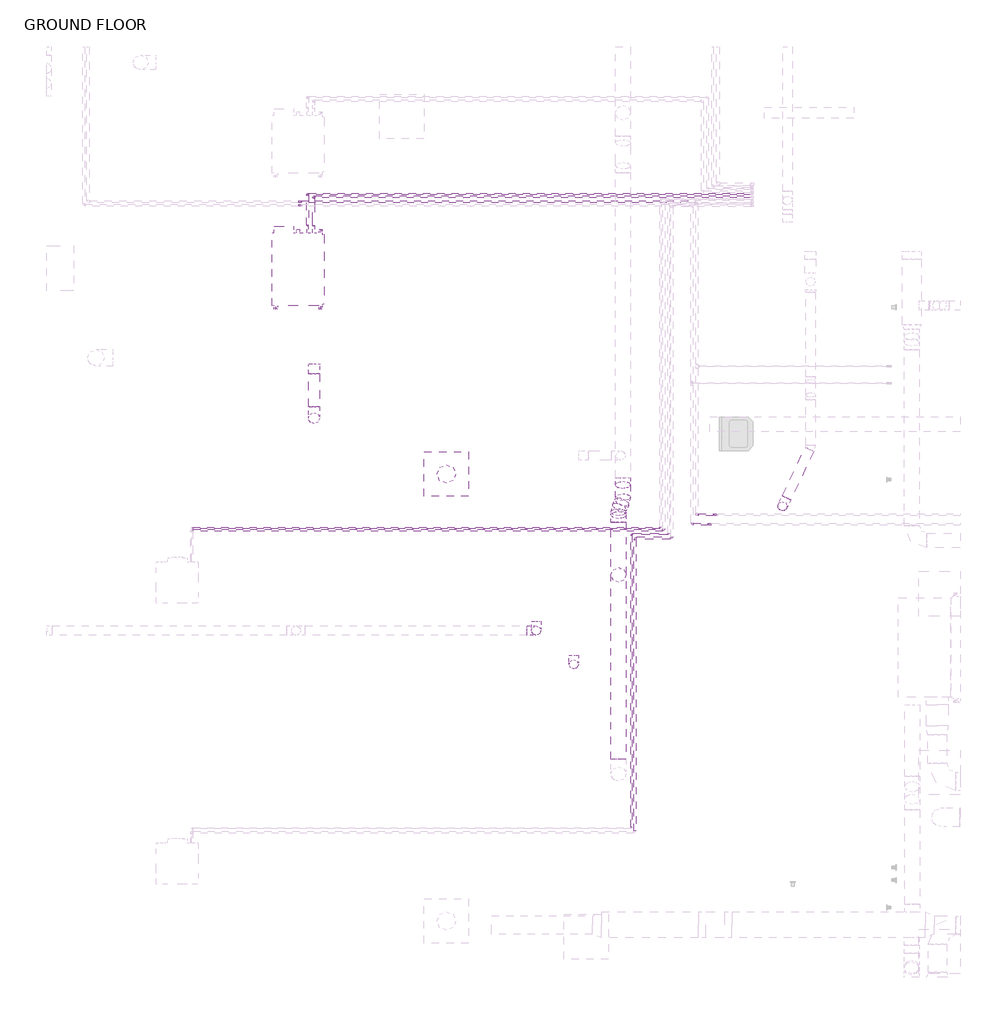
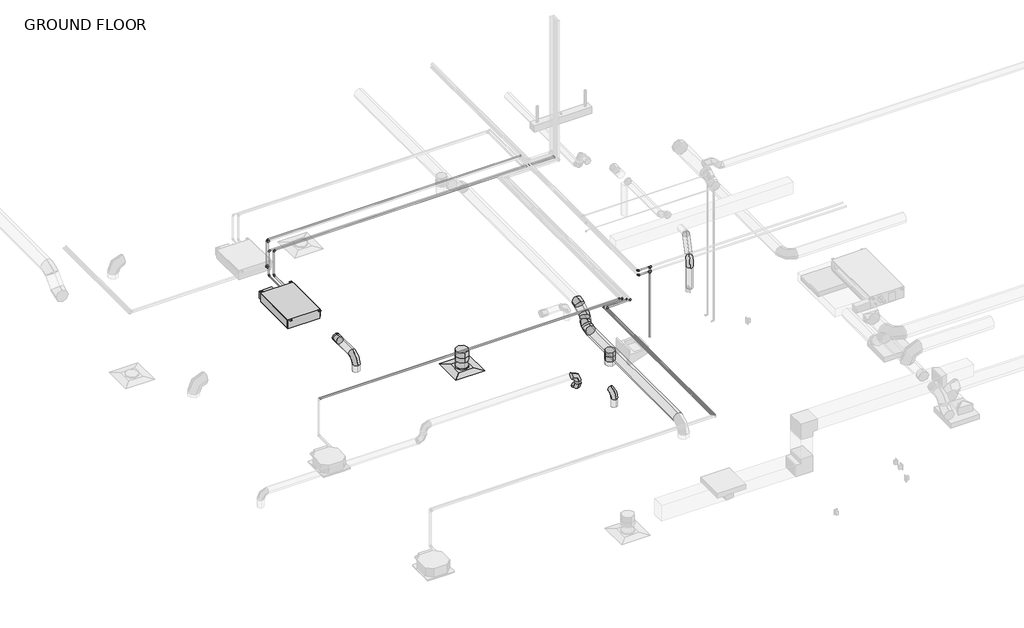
# One storey, part 11 of 20: 19 pipe fittings, 19 pipe segments, 12 duct fittings, 12 duct segments, 1 air terminal, 1 proxy.
"""IFC4 building model written with IfcOpenShell, lengths in millimetres."""

from ifc_helpers import new_model, si_unit, point, frame, frame_2d, origin, place, context, project, spatial, circle_curve, trimmed, segment, composite_curve, outline, extrude, transform, mapped, element, save
from components import air_terminal_a1f6e78c, mechanical_equipment_be926906, round_elbow_1_d_b37ad80b, round_elbow_1_d_c80420c1, round_elbow_1_d_9364b203, round_elbow_1_d_5bbd179f, round_takeoff_standard_d0146e83, round_takeoff_standard_37489045, round_takeoff_standard_1d5c4ba7, elbow_generic_standard_c06ac706, elbow_generic_standard_738589b0, elbow_generic_standard_a088f956, elbow_generic_standard_908d6d78, elbow_generic_standard_760b037f, tee_generic_standard_d345b28c, transition_generic_standard_43f54093

model = new_model("IFC4")

# Units and contexts
model_context = context("Model", 3, world=origin())
ifc_project = project(units=[si_unit("LENGTHUNIT", "METRE", prefix="MILLI")], contexts=[model_context])

# Site, building, storey
site = spatial("IfcSite", under=ifc_project)
building = spatial("IfcBuilding", under=site)
storey = spatial("IfcBuildingStorey", under=building, Name="GROUND FLOOR", Elevation=30480.0)

# Air terminal
placement = place(None, origin())
air_terminal_shape = air_terminal_a1f6e78c(model_context)
element("IfcAirTerminal", 1, ObjectType="Supply Diffuser - Rectangular Face Round Neck - Hosted : 24\"x24\" Face 10\" Neck - Hosted", at=placement, inside=storey, context=model_context, shape_type="MappedRepresentation", body=[
    mapped(air_terminal_shape, transform((-13605.5079607, 3749.0820005, 32715.2), x_axis=(-1.0, 0.0, 0.0), y_axis=(0.0, 1.0, 0.0), z_axis=(0.0, 0.0, -1.0))),
])

# Proxy
mechanical_equipment_shape = mechanical_equipment_be926906(model_context)
element("IfcBuildingElementProxy", 2, Name="PEFY-P-NMSU-E_Low_Profile_Ducted : PEFY-P15NMSU-E", ObjectType="PEFY-P-NMSU-E_Low_Profile_Ducted : PEFY-P15NMSU-E", at=placement, inside=storey, context=model_context, shape_type="MappedRepresentation", body=[
    mapped(mechanical_equipment_shape, transform((-15624.8774525, 6541.2842307, 33021.6591996), x_axis=(0.0, 1.0, 0.0), y_axis=(-1.0, 0.0, 0.0), z_axis=(0.0, 0.0, 1.0))),
])

# Duct fittings
round_elbow_1_d_shape = round_elbow_1_d_b37ad80b(model_context)
element("IfcDuctFitting", 3, ObjectType="Round Elbow : 1 D", at=placement, inside=storey, context=model_context, shape_type="MappedRepresentation", body=[
    mapped(round_elbow_1_d_shape, transform((-15410.4954607, 4511.0820005, 33121.6), x_axis=(0.0, -1.0, 0.0), y_axis=(0.0, 0.0, -1.0), z_axis=(1.0, 0.0, 0.0))),
])
round_elbow_1_d_2_shape = round_elbow_1_d_c80420c1(model_context)
element("IfcDuctFitting", 4, ObjectType="Round Elbow : 1 D", at=placement, inside=storey, context=model_context, shape_type="MappedRepresentation", body=[
    mapped(round_elbow_1_d_2_shape, transform((-11866.4513201, 1153.5195005, 33121.6), x_axis=(0.0, 0.0, 1.0), y_axis=(0.0, 1.0, 0.0), z_axis=(-1.0, 0.0, 0.0))),
])
element("IfcDuctFitting", 5, ObjectType="Round Elbow : 1 D", at=placement, inside=storey, context=model_context, shape_type="MappedRepresentation", body=[
    mapped(round_elbow_1_d_2_shape, transform((-12379.8126806, 1613.8945005, 33426.4), x_axis=(1.0, 0.0, 0.0), y_axis=(0.0, 0.0, -1.0), z_axis=(0.0, 1.0, 0.0))),
])
element("IfcDuctFitting", 6, ObjectType="Round Elbow : 1 D", at=placement, inside=storey, context=model_context, shape_type="MappedRepresentation", body=[
    mapped(round_elbow_1_d_2_shape, transform((-12379.8126806, 1613.8945005, 33121.6), x_axis=(0.0, 0.0, -1.0), y_axis=(0.0, 1.0, 0.0), z_axis=(1.0, 0.0, 0.0))),
])
element("IfcDuctFitting", 7, ObjectType="Round Elbow : 1 D", at=placement, inside=storey, context=model_context, shape_type="MappedRepresentation", body=[
    mapped(round_elbow_1_d_2_shape, transform((-9019.2204607, 3309.3445005, 33769.3), x_axis=(0.0, 0.0, 1.0), y_axis=(0.43029426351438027, 0.9026886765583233, 0.0), z_axis=(-0.9026886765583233, 0.43029426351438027, 0.0))),
])
round_elbow_1_d_3_shape = round_elbow_1_d_9364b203(model_context)
element("IfcDuctFitting", 8, ObjectType="Round Elbow : 1 D", at=placement, inside=storey, context=model_context, shape_type="MappedRepresentation", body=[
    mapped(round_elbow_1_d_3_shape, transform((-11194.8892107, 3645.7099951, 33401.0), x_axis=(0.0, -1.0, 0.0), y_axis=(0.0, 0.0, -1.0), z_axis=(1.0, 0.0, 0.0))),
])
element("IfcDuctFitting", 9, ObjectType="Round Elbow : 1 D", at=placement, inside=storey, context=model_context, shape_type="MappedRepresentation", body=[
    mapped(round_elbow_1_d_3_shape, transform((-11256.8513201, 3144.8540791, 33121.6), x_axis=(0.0, 1.0, 0.0), y_axis=(0.0, 0.0, 1.0), z_axis=(1.0, 0.0, 0.0))),
])
round_elbow_1_d_4_shape = round_elbow_1_d_5bbd179f(model_context)
element("IfcDuctFitting", 10, ObjectType="Round Elbow : 1 D", at=placement, inside=storey, context=model_context, shape_type="MappedRepresentation", body=[
    mapped(round_elbow_1_d_4_shape, transform((-11194.8892107, 3397.4009398, 33262.4820194), x_axis=(0.3723469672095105, 0.8105107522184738, 0.4521394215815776), y_axis=(-0.928093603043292, 0.32517325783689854, 0.18139629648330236), z_axis=(0.0, -0.4871700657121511, 0.8733071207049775))),
])
element("IfcDuctFitting", 11, ObjectType="Round Elbow : 1 D", at=placement, inside=storey, context=model_context, shape_type="MappedRepresentation", body=[
    mapped(round_elbow_1_d_4_shape, transform((-11256.8513201, 3262.5241708, 33187.2416797), x_axis=(-0.372346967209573, -0.8105107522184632, -0.45213942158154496), y_axis=(0.9280936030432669, -0.325173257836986, -0.18139629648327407), z_axis=(0.0, -0.48717006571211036, 0.8733071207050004))),
])
round_takeoff_standard_shape = round_takeoff_standard_d0146e83(model_context)
element("IfcDuctFitting", 12, ObjectType="Round Takeoff : Standard", at=placement, inside=storey, context=model_context, shape_type="MappedRepresentation", body=[
    mapped(round_takeoff_standard_shape, transform((-15410.4954607, 5220.6945005, 33121.6), x_axis=(0.0, -1.0, 0.0), y_axis=(-1.0, 0.0, 0.0), z_axis=(0.0, 0.0, -1.0))),
])
round_takeoff_standard_2_shape = round_takeoff_standard_37489045(model_context)
element("IfcDuctFitting", 13, ObjectType="Round Takeoff : Standard", at=placement, inside=storey, context=model_context, shape_type="MappedRepresentation", body=[
    mapped(round_takeoff_standard_2_shape, transform((-13605.5079607, 3749.0820005, 32998.8880493), x_axis=(0.0, 0.0, -1.0), y_axis=(1.0, 0.0, 0.0), z_axis=(0.0, -1.0, 0.0))),
])
round_takeoff_standard_3_shape = round_takeoff_standard_1d5c4ba7(model_context)
element("IfcDuctFitting", 14, ObjectType="Round Takeoff : Standard", at=placement, inside=storey, context=model_context, shape_type="MappedRepresentation", body=[
    mapped(round_takeoff_standard_3_shape, transform((-11256.8513201, 2372.7195005, 33020.0), x_axis=(0.0, 0.0, -1.0), y_axis=(0.0, -1.0, 0.0), z_axis=(-1.0, 0.0, 0.0))),
])

# Duct segments
element("IfcDuctSegment", 15, ObjectType="Taps / Short Radius", at=placement, inside=storey, context=model_context, shape_type="SweptSolid", body=[
    extrude(outline(composite_curve([segment(trimmed(circle_curve(frame_2d((-13605.5079607, 3749.0820005)), 127.0), [point((-13478.5079607, 3749.0820005))], [point((-13605.5079607, 3622.0820005))], False, "CARTESIAN"), True, "CONTINUOUS"), segment(trimmed(circle_curve(frame_2d((-13605.5079607, 3749.0820005)), 127.0), [point((-13605.5079607, 3622.0820005))], [point((-13732.5079607, 3749.0820005))], False, "CARTESIAN"), True, "CONTINUOUS"), segment(trimmed(circle_curve(frame_2d((-13605.5079607, 3749.0820005)), 127.0), [point((-13732.5079607, 3749.0820005))], [point((-13605.5079607, 3876.0820005))], False, "CARTESIAN"), True, "CONTINUOUS"), segment(trimmed(circle_curve(frame_2d((-13605.5079607, 3749.0820005)), 127.0), [point((-13605.5079607, 3876.0820005))], [point((-13478.5079607, 3749.0820005))], False, "CARTESIAN"), True, "CONTINUOUS")], self_intersect=False)), frame((0.0, 0.0, 32769.175), z_axis=(0.0, 0.0, 1.0), x_axis=(1.0, 0.0, 0.0)), (0.0, 0.0, 1.0), 128.1010851),
])
element("IfcDuctSegment", 16, ObjectType="Taps / Short Radius", at=placement, inside=storey, context=model_context, shape_type="SweptSolid", body=[
    extrude(outline(composite_curve([segment(trimmed(circle_curve(frame_2d((-11866.4513201, 1153.5195005)), 63.5), [point((-11802.9513201, 1153.5195005))], [point((-11866.4513201, 1090.0195005))], False, "CARTESIAN"), True, "CONTINUOUS"), segment(trimmed(circle_curve(frame_2d((-11866.4513201, 1153.5195005)), 63.5), [point((-11866.4513201, 1090.0195005))], [point((-11929.9513201, 1153.5195005))], False, "CARTESIAN"), True, "CONTINUOUS"), segment(trimmed(circle_curve(frame_2d((-11866.4513201, 1153.5195005)), 63.5), [point((-11929.9513201, 1153.5195005))], [point((-11866.4513201, 1217.0195005))], False, "CARTESIAN"), True, "CONTINUOUS"), segment(trimmed(circle_curve(frame_2d((-11866.4513201, 1153.5195005)), 63.5), [point((-11866.4513201, 1217.0195005))], [point((-11802.9513201, 1153.5195005))], False, "CARTESIAN"), True, "CONTINUOUS")], self_intersect=False)), frame((0.0, 0.0, 32816.8), z_axis=(0.0, 0.0, 1.0), x_axis=(1.0, 0.0, 0.0)), (0.0, 0.0, 1.0), 177.8),
])
element("IfcDuctSegment", 17, ObjectType="Taps / Short Radius", at=placement, inside=storey, context=model_context, shape_type="SweptSolid", body=[
    extrude(outline(composite_curve([segment(trimmed(circle_curve(frame_2d((-12379.8126806, 1613.8945005)), 63.5), [point((-12379.8126806, 1677.3945005))], [point((-12316.3126806, 1613.8945005))], False, "CARTESIAN"), True, "CONTINUOUS"), segment(trimmed(circle_curve(frame_2d((-12379.8126806, 1613.8945005)), 63.5), [point((-12316.3126806, 1613.8945005))], [point((-12379.8126806, 1550.3945005))], False, "CARTESIAN"), True, "CONTINUOUS"), segment(trimmed(circle_curve(frame_2d((-12379.8126806, 1613.8945005)), 63.5), [point((-12379.8126806, 1550.3945005))], [point((-12443.3126806, 1613.8945005))], False, "CARTESIAN"), True, "CONTINUOUS"), segment(trimmed(circle_curve(frame_2d((-12379.8126806, 1613.8945005)), 63.5), [point((-12443.3126806, 1613.8945005))], [point((-12379.8126806, 1677.3945005))], False, "CARTESIAN"), True, "CONTINUOUS")], self_intersect=False)), frame((0.0, 0.0, 33248.6), z_axis=(0.0, 0.0, 1.0), x_axis=(1.0, 0.0, 0.0)), (0.0, 0.0, 1.0), 50.8),
])
element("IfcDuctSegment", 18, ObjectType="Taps / Short Radius", at=placement, inside=storey, context=model_context, shape_type="SweptSolid", body=[
    extrude(outline(composite_curve([segment(trimmed(circle_curve(frame_2d((0.0, -101.6)), 101.6), [point((-101.6, -101.6))], [point((0.0, 0.0))], False, "CARTESIAN"), True, "CONTINUOUS"), segment(trimmed(circle_curve(frame_2d((0.0, -101.6)), 101.6), [point((0.0, 0.0))], [point((101.6, -101.6))], False, "CARTESIAN"), True, "CONTINUOUS"), segment(trimmed(circle_curve(frame_2d((0.0, -101.6)), 101.6), [point((101.6, -101.6))], [point((0.0, -203.2))], False, "CARTESIAN"), True, "CONTINUOUS"), segment(trimmed(circle_curve(frame_2d((0.0, -101.6)), 101.6), [point((0.0, -203.2))], [point((-101.6, -101.6))], False, "CARTESIAN"), True, "CONTINUOUS")], self_intersect=False)), frame((-11256.8513201, 3240.49956, 33058.6159896), z_axis=(0.0, 0.8733071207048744, 0.48717006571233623), x_axis=(1.0, 0.0, 0.0)), (0.0, 0.0, 1.0), 42.6555331),
])
element("IfcDuctSegment", 19, ObjectType="Taps / Short Radius", at=placement, inside=storey, context=model_context, shape_type="SweptSolid", body=[
    extrude(outline(composite_curve([segment(trimmed(circle_curve(frame_2d((0.0, -101.6)), 101.6), [point((-101.6, -101.6))], [point((0.0, 0.0))], False, "CARTESIAN"), True, "CONTINUOUS"), segment(trimmed(circle_curve(frame_2d((0.0, -101.6)), 101.6), [point((0.0, 0.0))], [point((101.6, -101.6))], False, "CARTESIAN"), True, "CONTINUOUS"), segment(trimmed(circle_curve(frame_2d((0.0, -101.6)), 101.6), [point((101.6, -101.6))], [point((0.0, -203.2))], False, "CARTESIAN"), True, "CONTINUOUS"), segment(trimmed(circle_curve(frame_2d((0.0, -101.6)), 101.6), [point((0.0, -203.2))], [point((-101.6, -101.6))], False, "CARTESIAN"), True, "CONTINUOUS")], self_intersect=False)), frame((-11194.8892107, 3481.1671271, 33192.8712037), z_axis=(0.0, 0.8733071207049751, 0.48717006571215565), x_axis=(1.0, 0.0, 0.0)), (0.0, 0.0, 1.0), 192.2466226),
])
element("IfcDuctSegment", 20, ObjectType="Taps / Short Radius", at=placement, inside=storey, context=model_context, shape_type="SweptSolid", body=[
    extrude(outline(composite_curve([segment(trimmed(circle_curve(frame_2d((0.0, -101.6)), 101.6), [point((-99.4767358, -80.9374965))], [point((20.6625035, -2.1232642))], False, "CARTESIAN"), True, "CONTINUOUS"), segment(trimmed(circle_curve(frame_2d((0.0, -101.6)), 101.6), [point((20.6625035, -2.1232642))], [point((99.4767357, -122.2625035))], False, "CARTESIAN"), True, "CONTINUOUS"), segment(trimmed(circle_curve(frame_2d((0.0, -101.6)), 101.6), [point((99.4767357, -122.2625035))], [point((-20.6625035, -201.0767357))], False, "CARTESIAN"), True, "CONTINUOUS"), segment(trimmed(circle_curve(frame_2d((0.0, -101.6)), 101.6), [point((-20.6625035, -201.0767357))], [point((-99.4767358, -80.9374965))], False, "CARTESIAN"), True, "CONTINUOUS")], self_intersect=False)), frame((-11242.2399402, 3343.8261468, 33116.2562159), z_axis=(0.37234696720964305, 0.8105107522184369, 0.4521394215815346), x_axis=(0.928093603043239, -0.3251732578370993, -0.18139629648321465)), (0.0, 0.0, 1.0), 87.9269943),
])
element("IfcDuctSegment", 21, ObjectType="Taps / Short Radius", at=placement, inside=storey, context=model_context, shape_type="SweptSolid", body=[
    extrude(outline(composite_curve([segment(trimmed(circle_curve(frame_2d((-11256.8513201, 2372.7195005)), 101.6), [point((-11256.8513201, 2474.3195005))], [point((-11155.2513201, 2372.7195005))], False, "CARTESIAN"), True, "CONTINUOUS"), segment(trimmed(circle_curve(frame_2d((-11256.8513201, 2372.7195005)), 101.6), [point((-11155.2513201, 2372.7195005))], [point((-11256.8513201, 2271.1195005))], False, "CARTESIAN"), True, "CONTINUOUS"), segment(trimmed(circle_curve(frame_2d((-11256.8513201, 2372.7195005)), 101.6), [point((-11256.8513201, 2271.1195005))], [point((-11358.4513201, 2372.7195005))], False, "CARTESIAN"), True, "CONTINUOUS"), segment(trimmed(circle_curve(frame_2d((-11256.8513201, 2372.7195005)), 101.6), [point((-11358.4513201, 2372.7195005))], [point((-11256.8513201, 2474.3195005))], False, "CARTESIAN"), True, "CONTINUOUS")], self_intersect=False)), frame((0.0, 0.0, 32816.8), z_axis=(0.0, 0.0, 1.0), x_axis=(1.0, 0.0, 0.0)), (0.0, 0.0, 1.0), 101.6),
])
element("IfcDuctSegment", 22, ObjectType="Taps / Short Radius", at=placement, inside=storey, context=model_context, shape_type="SweptSolid", body=[
    extrude(outline(composite_curve([segment(trimmed(circle_curve(frame_2d((33121.6, -11256.8513201)), 101.6), [point((33121.6, -11358.4513201))], [point((33020.0, -11256.8513201))], False, "CARTESIAN"), True, "CONTINUOUS"), segment(trimmed(circle_curve(frame_2d((33121.6, -11256.8513201)), 101.6), [point((33020.0, -11256.8513201))], [point((33121.6, -11155.2513201))], False, "CARTESIAN"), True, "CONTINUOUS"), segment(trimmed(circle_curve(frame_2d((33121.6, -11256.8513201)), 101.6), [point((33121.6, -11155.2513201))], [point((33223.2, -11256.8513201))], False, "CARTESIAN"), True, "CONTINUOUS"), segment(trimmed(circle_curve(frame_2d((33121.6, -11256.8513201)), 101.6), [point((33223.2, -11256.8513201))], [point((33121.6, -11358.4513201))], False, "CARTESIAN"), True, "CONTINUOUS")], self_intersect=False)), frame((0.0, -138.7054995, 0.0), z_axis=(0.0, 1.0, 0.0), x_axis=(0.0, 0.0, 1.0)), (0.0, 0.0, 1.0), 3230.7156235),
])
element("IfcDuctSegment", 23, ObjectType="Taps / Short Radius", at=placement, inside=storey, context=model_context, shape_type="SweptSolid", body=[
    extrude(outline(composite_curve([segment(trimmed(circle_curve(frame_2d((0.0, 63.5)), 63.5), [point((63.4999999, 63.5))], [point((0.0, 0.0))], False, "CARTESIAN"), True, "CONTINUOUS"), segment(trimmed(circle_curve(frame_2d((0.0, 63.5)), 63.5), [point((0.0, 0.0))], [point((-63.5000001, 63.5))], False, "CARTESIAN"), True, "CONTINUOUS"), segment(trimmed(circle_curve(frame_2d((0.0, 63.5)), 63.5), [point((-63.5000001, 63.5))], [point((0.0, 127.0))], False, "CARTESIAN"), True, "CONTINUOUS"), segment(trimmed(circle_curve(frame_2d((0.0, 63.5)), 63.5), [point((0.0, 127.0))], [point((63.4999999, 63.5))], False, "CARTESIAN"), True, "CONTINUOUS")], self_intersect=False)), frame((-8964.5730892, 3423.9859624, 33832.8), z_axis=(0.43029426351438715, 0.90268867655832, 0.0), x_axis=(0.90268867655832, -0.43029426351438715, 0.0)), (0.0, 0.0, 1.0), 733.4087791),
])
element("IfcDuctSegment", 24, ObjectType="Taps / Short Radius", at=placement, inside=storey, context=model_context, shape_type="SweptSolid", body=[
    extrude(outline(composite_curve([segment(trimmed(circle_curve(frame_2d((-9019.2204607, 3309.3445005)), 63.5), [point((-8955.7204607, 3309.3445005))], [point((-9019.2204607, 3245.8445005))], False, "CARTESIAN"), True, "CONTINUOUS"), segment(trimmed(circle_curve(frame_2d((-9019.2204607, 3309.3445005)), 63.5), [point((-9019.2204607, 3245.8445005))], [point((-9082.7204607, 3309.3445005))], False, "CARTESIAN"), True, "CONTINUOUS"), segment(trimmed(circle_curve(frame_2d((-9019.2204607, 3309.3445005)), 63.5), [point((-9082.7204607, 3309.3445005))], [point((-9019.2204607, 3372.8445005))], False, "CARTESIAN"), True, "CONTINUOUS"), segment(trimmed(circle_curve(frame_2d((-9019.2204607, 3309.3445005)), 63.5), [point((-9019.2204607, 3372.8445005))], [point((-8955.7204607, 3309.3445005))], False, "CARTESIAN"), True, "CONTINUOUS")], self_intersect=False)), frame((0.0, 0.0, 33172.4), z_axis=(0.0, 0.0, 1.0), x_axis=(1.0, 0.0, 0.0)), (0.0, 0.0, 1.0), 469.9),
])
element("IfcDuctSegment", 25, ObjectType="Taps / Short Radius", at=placement, inside=storey, context=model_context, shape_type="SweptSolid", body=[
    extrude(outline(composite_curve([segment(trimmed(circle_curve(frame_2d((-15410.4954607, 4511.0820005)), 76.2), [point((-15486.6954607, 4511.0820005))], [point((-15410.4954607, 4587.2820005))], False, "CARTESIAN"), True, "CONTINUOUS"), segment(trimmed(circle_curve(frame_2d((-15410.4954607, 4511.0820005)), 76.2), [point((-15410.4954607, 4587.2820005))], [point((-15334.2954607, 4511.0820005))], False, "CARTESIAN"), True, "CONTINUOUS"), segment(trimmed(circle_curve(frame_2d((-15410.4954607, 4511.0820005)), 76.2), [point((-15334.2954607, 4511.0820005))], [point((-15410.4954607, 4434.8820005))], False, "CARTESIAN"), True, "CONTINUOUS"), segment(trimmed(circle_curve(frame_2d((-15410.4954607, 4511.0820005)), 76.2), [point((-15410.4954607, 4434.8820005))], [point((-15486.6954607, 4511.0820005))], False, "CARTESIAN"), True, "CONTINUOUS")], self_intersect=False)), frame((0.0, 0.0, 32816.8), z_axis=(0.0, 0.0, 1.0), x_axis=(1.0, 0.0, 0.0)), (0.0, 0.0, 1.0), 152.4),
])
element("IfcDuctSegment", 26, ObjectType="Taps / Short Radius", at=placement, inside=storey, context=model_context, shape_type="SweptSolid", body=[
    extrude(outline(composite_curve([segment(trimmed(circle_curve(frame_2d((33121.6, -15410.4954607)), 76.2), [point((33121.6, -15486.6954607))], [point((33045.4, -15410.4954607))], False, "CARTESIAN"), True, "CONTINUOUS"), segment(trimmed(circle_curve(frame_2d((33121.6, -15410.4954607)), 76.2), [point((33045.4, -15410.4954607))], [point((33121.6, -15334.2954607))], False, "CARTESIAN"), True, "CONTINUOUS"), segment(trimmed(circle_curve(frame_2d((33121.6, -15410.4954607)), 76.2), [point((33121.6, -15334.2954607))], [point((33197.8, -15410.4954607))], False, "CARTESIAN"), True, "CONTINUOUS"), segment(trimmed(circle_curve(frame_2d((33121.6, -15410.4954607)), 76.2), [point((33197.8, -15410.4954607))], [point((33121.6, -15486.6954607))], False, "CARTESIAN"), True, "CONTINUOUS")], self_intersect=False)), frame((0.0, 4663.4820005, 0.0), z_axis=(0.0, 1.0, 0.0), x_axis=(0.0, 0.0, 1.0)), (0.0, 0.0, 1.0), 455.6125),
])

# Pipe fittings
elbow_generic_standard_shape = elbow_generic_standard_c06ac706(model_context)
element("IfcPipeFitting", 27, ObjectType="Elbow - Generic : Standard", at=placement, inside=storey, context=model_context, shape_type="MappedRepresentation", body=[
    mapped(elbow_generic_standard_shape, transform((-15415.123395, 7528.3379884, 33680.4), x_axis=(0.0, 0.0, 1.0), y_axis=(1.0, 0.0, 0.0), z_axis=(0.0, 1.0, 0.0))),
])
element("IfcPipeFitting", 28, ObjectType="Elbow - Generic : Standard", at=placement, inside=storey, context=model_context, shape_type="MappedRepresentation", body=[
    mapped(elbow_generic_standard_shape, transform((-10635.1515455, 2984.2674809, 33680.4), x_axis=(1.0, 0.0, 0.0), y_axis=(0.0, 1.0, 0.0), z_axis=(0.0, 0.0, 1.0))),
])
element("IfcPipeFitting", 29, ObjectType="Elbow - Generic : Standard", at=placement, inside=storey, context=model_context, shape_type="MappedRepresentation", body=[
    mapped(elbow_generic_standard_shape, transform((-11032.9642107, 2875.8543566, 33680.4), x_axis=(-1.0, 0.0, 0.0), y_axis=(0.0, -1.0, 0.0), z_axis=(0.0, 0.0, 1.0))),
])
element("IfcPipeFitting", 30, ObjectType="Elbow - Generic : Standard", at=placement, inside=storey, context=model_context, shape_type="MappedRepresentation", body=[
    mapped(elbow_generic_standard_shape, transform((-10524.9642107, 2875.8543566, 33680.4), x_axis=(1.0, 0.0, 0.0), y_axis=(0.0, 1.0, 0.0), z_axis=(0.0, 0.0, 1.0))),
])
element("IfcPipeFitting", 31, ObjectType="Elbow - Generic : Standard", at=placement, inside=storey, context=model_context, shape_type="MappedRepresentation", body=[
    mapped(elbow_generic_standard_shape, transform((-10189.2079607, 3193.0718518, 34023.3), x_axis=(0.0, -1.0, 0.0), y_axis=(0.9999999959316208, 0.0, -9.020398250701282e-05), z_axis=(9.020398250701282e-05, 0.0, 0.9999999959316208))),
])
element("IfcPipeFitting", 32, ObjectType="Elbow - Generic : Standard", at=placement, inside=storey, context=model_context, shape_type="MappedRepresentation", body=[
    mapped(elbow_generic_standard_shape, transform((-10252.7079607, 3066.0718518, 34023.3), x_axis=(0.0, -1.0, 0.0), y_axis=(1.0, 0.0, 0.0), z_axis=(0.0, 0.0, 1.0))),
])
element("IfcPipeFitting", 33, ObjectType="Elbow - Generic : Standard", at=placement, inside=storey, context=model_context, shape_type="MappedRepresentation", body=[
    mapped(elbow_generic_standard_shape, transform((-15603.3767107, 7460.2718518, 34023.3), x_axis=(-1.0, 0.0, 0.0), y_axis=(0.0, 0.0, -1.0), z_axis=(0.0, -1.0, 0.0))),
])
element("IfcPipeFitting", 34, ObjectType="Elbow - Generic : Standard", at=placement, inside=storey, context=model_context, shape_type="MappedRepresentation", body=[
    mapped(elbow_generic_standard_shape, transform((-15603.3767107, 7460.2718518, 33436.8475147), x_axis=(0.0, 0.0, -1.0), y_axis=(-1.0, 0.0, 0.0), z_axis=(0.0, 1.0, 0.0))),
])
element("IfcPipeFitting", 35, ObjectType="Elbow - Generic : Standard", at=placement, inside=storey, context=model_context, shape_type="MappedRepresentation", body=[
    mapped(elbow_generic_standard_shape, transform((-15603.3767107, 7415.8218518, 34023.3), x_axis=(-1.0, 0.0, 0.0), y_axis=(0.0, 0.0, -1.0), z_axis=(0.0, -1.0, 0.0))),
])
element("IfcPipeFitting", 36, ObjectType="Elbow - Generic : Standard", at=placement, inside=storey, context=model_context, shape_type="MappedRepresentation", body=[
    mapped(elbow_generic_standard_shape, transform((-15603.3767107, 7415.8218518, 33436.8475147), x_axis=(0.0, 0.0, -1.0), y_axis=(-1.0, 0.0, 0.0), z_axis=(0.0, 1.0, 0.0))),
])
elbow_generic_standard_2_shape = elbow_generic_standard_738589b0(model_context)
element("IfcPipeFitting", 37, ObjectType="Elbow - Generic : Standard", at=placement, inside=storey, context=model_context, shape_type="MappedRepresentation", body=[
    mapped(elbow_generic_standard_2_shape, transform((-15498.3177546, 7567.6740548, 33680.4), x_axis=(0.0, 0.0, 1.0), y_axis=(1.0, 0.0, 0.0), z_axis=(0.0, 1.0, 0.0))),
])
elbow_generic_standard_3_shape = elbow_generic_standard_a088f956(model_context)
element("IfcPipeFitting", 38, ObjectType="Elbow - Generic : Standard", at=placement, inside=storey, context=model_context, shape_type="MappedRepresentation", body=[
    mapped(elbow_generic_standard_3_shape, transform((-10682.7765455, 3013.8265677, 33680.4), x_axis=(1.0, 0.0, 0.0), y_axis=(0.0, 1.0, 0.0), z_axis=(0.0, 0.0, 1.0))),
])
element("IfcPipeFitting", 39, ObjectType="Elbow - Generic : Standard", at=placement, inside=storey, context=model_context, shape_type="MappedRepresentation", body=[
    mapped(elbow_generic_standard_3_shape, transform((-11080.664993, 2930.0843297, 33680.4), x_axis=(-1.0, 0.0, 0.0), y_axis=(0.0, -1.0, 0.0), z_axis=(0.0, 0.0, 1.0))),
])
element("IfcPipeFitting", 40, ObjectType="Elbow - Generic : Standard", at=placement, inside=storey, context=model_context, shape_type="MappedRepresentation", body=[
    mapped(elbow_generic_standard_3_shape, transform((-10572.5892107, 2930.0843297, 33680.4), x_axis=(1.0, 0.0, 0.0), y_axis=(0.0, 1.0, 0.0), z_axis=(0.0, 0.0, 1.0))),
])
elbow_generic_standard_4_shape = elbow_generic_standard_908d6d78(model_context)
element("IfcPipeFitting", 41, ObjectType="Elbow - Generic : Standard", at=placement, inside=storey, context=model_context, shape_type="MappedRepresentation", body=[
    mapped(elbow_generic_standard_4_shape, transform((-15498.3177546, 7567.6740548, 33121.6561098), x_axis=(0.0, 0.999999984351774, -0.00017690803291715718), y_axis=(0.0, 0.00017690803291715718, 0.999999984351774), z_axis=(1.0, 0.0, 0.0))),
])
elbow_generic_standard_5_shape = elbow_generic_standard_760b037f(model_context)
element("IfcPipeFitting", 42, ObjectType="Elbow - Generic : Standard", at=placement, inside=storey, context=model_context, shape_type="MappedRepresentation", body=[
    mapped(elbow_generic_standard_5_shape, transform((-15415.123395, 7528.3379884, 33121.5849403), x_axis=(0.0, 0.9999999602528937, -0.0002819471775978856), y_axis=(0.0, 0.0002819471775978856, 0.9999999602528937), z_axis=(1.0, 0.0, 0.0))),
])
tee_generic_standard_shape = tee_generic_standard_d345b28c(model_context)
element("IfcPipeFitting", 43, ObjectType="Tee - Generic : Standard", at=placement, inside=storey, context=model_context, shape_type="MappedRepresentation", body=[
    mapped(tee_generic_standard_shape, transform((-9933.6204607, 3193.0718518, 34023.2981384), x_axis=(1.0, 0.0, 0.0), y_axis=(0.0, 0.0, 1.0), z_axis=(0.0, -1.0, 0.0))),
])
element("IfcPipeFitting", 44, ObjectType="Tee - Generic : Standard", at=placement, inside=storey, context=model_context, shape_type="MappedRepresentation", body=[
    mapped(tee_generic_standard_shape, transform((-10009.8204607, 3066.0718518, 34023.3), x_axis=(1.0, 0.0, 0.0), y_axis=(0.0, 0.0, 1.0), z_axis=(0.0, -1.0, 0.0))),
])
transition_generic_standard_shape = transition_generic_standard_43f54093(model_context)
element("IfcPipeFitting", 45, ObjectType="Transition - Generic : Standard", at=placement, inside=storey, context=model_context, shape_type="MappedRepresentation", body=[
    mapped(transition_generic_standard_shape, transform((-15498.3177546, 7136.5842307, 33121.6591996), x_axis=(0.0, 1.0, 0.0), y_axis=(-1.0, 0.0, 0.0), z_axis=(0.0, 0.0, 1.0))),
])

# Pipe segments
element("IfcPipeSegment", 46, ObjectType="Copper Tubing", at=placement, inside=storey, context=model_context, shape_type="SweptSolid", body=[
    extrude(outline(composite_curve([segment(trimmed(circle_curve(frame_2d((33121.6591996, -15498.3177546)), 11.1125), [point((33121.6591996, -15487.2052546))], [point((33132.7716996, -15498.3177546))], False, "CARTESIAN"), True, "CONTINUOUS"), segment(trimmed(circle_curve(frame_2d((33121.6591996, -15498.3177546)), 11.1125), [point((33132.7716996, -15498.3177546))], [point((33121.6591996, -15509.4302546))], False, "CARTESIAN"), True, "CONTINUOUS"), segment(trimmed(circle_curve(frame_2d((33121.6591996, -15498.3177546)), 11.1125), [point((33121.6591996, -15509.4302546))], [point((33110.5466996, -15498.3177546))], False, "CARTESIAN"), True, "CONTINUOUS"), segment(trimmed(circle_curve(frame_2d((33121.6591996, -15498.3177546)), 11.1125), [point((33110.5466996, -15498.3177546))], [point((33121.6591996, -15487.2052546))], False, "CARTESIAN"), True, "CONTINUOUS")], self_intersect=False)), frame((0.0, 7142.1404807, 0.0), z_axis=(0.0, 1.0, 0.0), x_axis=(0.0, 0.0, 1.0)), (0.0, 0.0, 1.0), 408.0679848),
])
element("IfcPipeSegment", 47, ObjectType="Copper Tubing", at=placement, inside=storey, context=model_context, shape_type="SweptSolid", body=[
    extrude(outline(composite_curve([segment(trimmed(circle_curve(frame_2d((7567.6740548, 33680.4)), 11.1125), [point((7556.5615548, 33680.4))], [point((7567.6740548, 33691.5125))], False, "CARTESIAN"), True, "CONTINUOUS"), segment(trimmed(circle_curve(frame_2d((7567.6740548, 33680.4)), 11.1125), [point((7567.6740548, 33691.5125))], [point((7578.7865548, 33680.4))], False, "CARTESIAN"), True, "CONTINUOUS"), segment(trimmed(circle_curve(frame_2d((7567.6740548, 33680.4)), 11.1125), [point((7578.7865548, 33680.4))], [point((7567.6740548, 33669.2875))], False, "CARTESIAN"), True, "CONTINUOUS"), segment(trimmed(circle_curve(frame_2d((7567.6740548, 33680.4)), 11.1125), [point((7567.6740548, 33669.2875))], [point((7556.5615548, 33680.4))], False, "CARTESIAN"), True, "CONTINUOUS")], self_intersect=False)), frame((-15480.8552546, 0.0, 0.0), z_axis=(1.0, 0.0, 0.0), x_axis=(0.0, 1.0, 0.0)), (0.0, 0.0, 1.0), 6033.8035439),
])
element("IfcPipeSegment", 48, ObjectType="Copper Tubing", at=placement, inside=storey, context=model_context, shape_type="SweptSolid", body=[
    extrude(outline(composite_curve([segment(trimmed(circle_curve(frame_2d((-15498.3177546, 7567.6740548)), 11.1125), [point((-15509.4302546, 7567.6740548))], [point((-15498.3177546, 7578.7865548))], False, "CARTESIAN"), True, "CONTINUOUS"), segment(trimmed(circle_curve(frame_2d((-15498.3177546, 7567.6740548)), 11.1125), [point((-15498.3177546, 7578.7865548))], [point((-15487.2052546, 7567.6740548))], False, "CARTESIAN"), True, "CONTINUOUS"), segment(trimmed(circle_curve(frame_2d((-15498.3177546, 7567.6740548)), 11.1125), [point((-15487.2052546, 7567.6740548))], [point((-15498.3177546, 7556.5615548))], False, "CARTESIAN"), True, "CONTINUOUS"), segment(trimmed(circle_curve(frame_2d((-15498.3177546, 7567.6740548)), 11.1125), [point((-15498.3177546, 7556.5615548))], [point((-15509.4302546, 7567.6740548))], False, "CARTESIAN"), True, "CONTINUOUS")], self_intersect=False)), frame((0.0, 0.0, 33139.1216994), z_axis=(0.0, 0.0, 1.0), x_axis=(1.0, 0.0, 0.0)), (0.0, 0.0, 1.0), 523.8158006),
])
element("IfcPipeSegment", 49, ObjectType="Copper Tubing", at=placement, inside=storey, context=model_context, shape_type="SweptSolid", body=[
    extrude(outline(composite_curve([segment(trimmed(circle_curve(frame_2d((33121.5907606, -15415.123395)), 14.2875), [point((33121.5907606, -15400.835895))], [point((33135.8782606, -15415.123395))], False, "CARTESIAN"), True, "CONTINUOUS"), segment(trimmed(circle_curve(frame_2d((33121.5907606, -15415.123395)), 14.2875), [point((33135.8782606, -15415.123395))], [point((33121.5907606, -15429.410895))], False, "CARTESIAN"), True, "CONTINUOUS"), segment(trimmed(circle_curve(frame_2d((33121.5907606, -15415.123395)), 14.2875), [point((33121.5907606, -15429.410895))], [point((33107.3032606, -15415.123395))], False, "CARTESIAN"), True, "CONTINUOUS"), segment(trimmed(circle_curve(frame_2d((33121.5907606, -15415.123395)), 14.2875), [point((33107.3032606, -15415.123395))], [point((33121.5907606, -15400.835895))], False, "CARTESIAN"), True, "CONTINUOUS")], self_intersect=False)), frame((0.0, 7136.5842307, 0.0), z_axis=(0.0, 1.0, 0.0), x_axis=(0.0, 0.0, 1.0)), (0.0, 0.0, 1.0), 371.110439),
])
element("IfcPipeSegment", 50, ObjectType="Copper Tubing", at=placement, inside=storey, context=model_context, shape_type="SweptSolid", body=[
    extrude(outline(composite_curve([segment(trimmed(circle_curve(frame_2d((7528.3379884, 33680.4)), 14.2875), [point((7514.0504884, 33680.4))], [point((7528.3379884, 33694.6875))], False, "CARTESIAN"), True, "CONTINUOUS"), segment(trimmed(circle_curve(frame_2d((7528.3379884, 33680.4)), 14.2875), [point((7528.3379884, 33694.6875))], [point((7542.6254884, 33680.4))], False, "CARTESIAN"), True, "CONTINUOUS"), segment(trimmed(circle_curve(frame_2d((7528.3379884, 33680.4)), 14.2875), [point((7542.6254884, 33680.4))], [point((7528.3379884, 33666.1125))], False, "CARTESIAN"), True, "CONTINUOUS"), segment(trimmed(circle_curve(frame_2d((7528.3379884, 33680.4)), 14.2875), [point((7528.3379884, 33666.1125))], [point((7514.0504884, 33680.4))], False, "CARTESIAN"), True, "CONTINUOUS")], self_intersect=False)), frame((-15394.485895, 0.0, 0.0), z_axis=(1.0, 0.0, 0.0), x_axis=(0.0, 1.0, 0.0)), (0.0, 0.0, 1.0), 5944.2591843),
])
element("IfcPipeSegment", 51, ObjectType="Copper Tubing", at=placement, inside=storey, context=model_context, shape_type="SweptSolid", body=[
    extrude(outline(composite_curve([segment(trimmed(circle_curve(frame_2d((-15415.123395, 7528.3379884)), 14.2875), [point((-15429.410895, 7528.3379884))], [point((-15415.123395, 7542.6254884))], False, "CARTESIAN"), True, "CONTINUOUS"), segment(trimmed(circle_curve(frame_2d((-15415.123395, 7528.3379884)), 14.2875), [point((-15415.123395, 7542.6254884))], [point((-15400.835895, 7528.3379884))], False, "CARTESIAN"), True, "CONTINUOUS"), segment(trimmed(circle_curve(frame_2d((-15415.123395, 7528.3379884)), 14.2875), [point((-15400.835895, 7528.3379884))], [point((-15415.123395, 7514.0504884))], False, "CARTESIAN"), True, "CONTINUOUS"), segment(trimmed(circle_curve(frame_2d((-15415.123395, 7528.3379884)), 14.2875), [point((-15415.123395, 7514.0504884))], [point((-15429.410895, 7528.3379884))], False, "CARTESIAN"), True, "CONTINUOUS")], self_intersect=False)), frame((0.0, 0.0, 33142.2282598), z_axis=(0.0, 0.0, 1.0), x_axis=(1.0, 0.0, 0.0)), (0.0, 0.0, 1.0), 517.5342402),
])
element("IfcPipeSegment", 52, ObjectType="Copper Tubing", at=placement, inside=storey, context=model_context, shape_type="SweptSolid", body=[
    extrude(outline(composite_curve([segment(trimmed(circle_curve(frame_2d((3013.8265677, 33680.4)), 7.9375), [point((3005.8890677, 33680.4))], [point((3013.8265677, 33688.3375))], False, "CARTESIAN"), True, "CONTINUOUS"), segment(trimmed(circle_curve(frame_2d((3013.8265677, 33680.4)), 7.9375), [point((3013.8265677, 33688.3375))], [point((3021.7640677, 33680.4))], False, "CARTESIAN"), True, "CONTINUOUS"), segment(trimmed(circle_curve(frame_2d((3013.8265677, 33680.4)), 7.9375), [point((3021.7640677, 33680.4))], [point((3013.8265677, 33672.4625))], False, "CARTESIAN"), True, "CONTINUOUS"), segment(trimmed(circle_curve(frame_2d((3013.8265677, 33680.4)), 7.9375), [point((3013.8265677, 33672.4625))], [point((3005.8890677, 33680.4))], False, "CARTESIAN"), True, "CONTINUOUS")], self_intersect=False)), frame((-17060.7017107, 0.0, 0.0), z_axis=(1.0, 0.0, 0.0), x_axis=(0.0, 1.0, 0.0)), (0.0, 0.0, 1.0), 6363.6376652),
])
element("IfcPipeSegment", 53, ObjectType="Copper Tubing", at=placement, inside=storey, context=model_context, shape_type="SweptSolid", body=[
    extrude(outline(composite_curve([segment(trimmed(circle_curve(frame_2d((2984.2674809, 33680.4)), 14.2875), [point((2969.9799809, 33680.4))], [point((2984.2674809, 33694.6875))], False, "CARTESIAN"), True, "CONTINUOUS"), segment(trimmed(circle_curve(frame_2d((2984.2674809, 33680.4)), 14.2875), [point((2984.2674809, 33694.6875))], [point((2998.5549809, 33680.4))], False, "CARTESIAN"), True, "CONTINUOUS"), segment(trimmed(circle_curve(frame_2d((2984.2674809, 33680.4)), 14.2875), [point((2998.5549809, 33680.4))], [point((2984.2674809, 33666.1125))], False, "CARTESIAN"), True, "CONTINUOUS"), segment(trimmed(circle_curve(frame_2d((2984.2674809, 33680.4)), 14.2875), [point((2984.2674809, 33666.1125))], [point((2969.9799809, 33680.4))], False, "CARTESIAN"), True, "CONTINUOUS")], self_intersect=False)), frame((-17057.5267107, 0.0, 0.0), z_axis=(1.0, 0.0, 0.0), x_axis=(0.0, 1.0, 0.0)), (0.0, 0.0, 1.0), 6401.7376652),
])
element("IfcPipeSegment", 54, ObjectType="Copper Tubing", at=placement, inside=storey, context=model_context, shape_type="SweptSolid", body=[
    extrude(outline(composite_curve([segment(trimmed(circle_curve(frame_2d((33680.4, -11080.664993)), 7.9375), [point((33680.4, -11072.727493))], [point((33688.3375, -11080.664993))], False, "CARTESIAN"), True, "CONTINUOUS"), segment(trimmed(circle_curve(frame_2d((33680.4, -11080.664993)), 7.9375), [point((33688.3375, -11080.664993))], [point((33680.4, -11088.602493))], False, "CARTESIAN"), True, "CONTINUOUS"), segment(trimmed(circle_curve(frame_2d((33680.4, -11080.664993)), 7.9375), [point((33680.4, -11088.602493))], [point((33672.4625, -11080.664993))], False, "CARTESIAN"), True, "CONTINUOUS"), segment(trimmed(circle_curve(frame_2d((33680.4, -11080.664993)), 7.9375), [point((33672.4625, -11080.664993))], [point((33680.4, -11072.727493))], False, "CARTESIAN"), True, "CONTINUOUS")], self_intersect=False)), frame((0.0, -1068.8281703, 0.0), z_axis=(0.0, 1.0, 0.0), x_axis=(0.0, 0.0, 1.0)), (0.0, 0.0, 1.0), 3984.625),
])
element("IfcPipeSegment", 55, ObjectType="Copper Tubing", at=placement, inside=storey, context=model_context, shape_type="SweptSolid", body=[
    extrude(outline(composite_curve([segment(trimmed(circle_curve(frame_2d((2930.0843297, 33680.4)), 7.9375), [point((2922.1468297, 33680.4))], [point((2930.0843297, 33688.3375))], False, "CARTESIAN"), True, "CONTINUOUS"), segment(trimmed(circle_curve(frame_2d((2930.0843297, 33680.4)), 7.9375), [point((2930.0843297, 33688.3375))], [point((2938.0218297, 33680.4))], False, "CARTESIAN"), True, "CONTINUOUS"), segment(trimmed(circle_curve(frame_2d((2930.0843297, 33680.4)), 7.9375), [point((2938.0218297, 33680.4))], [point((2930.0843297, 33672.4625))], False, "CARTESIAN"), True, "CONTINUOUS"), segment(trimmed(circle_curve(frame_2d((2930.0843297, 33680.4)), 7.9375), [point((2930.0843297, 33672.4625))], [point((2922.1468297, 33680.4))], False, "CARTESIAN"), True, "CONTINUOUS")], self_intersect=False)), frame((-11066.377493, 0.0, 0.0), z_axis=(1.0, 0.0, 0.0), x_axis=(0.0, 1.0, 0.0)), (0.0, 0.0, 1.0), 479.5007823),
])
element("IfcPipeSegment", 56, ObjectType="Copper Tubing", at=placement, inside=storey, context=model_context, shape_type="SweptSolid", body=[
    extrude(outline(composite_curve([segment(trimmed(circle_curve(frame_2d((33680.4, -11032.9642107)), 14.2875), [point((33680.4, -11018.6767107))], [point((33694.6875, -11032.9642107))], False, "CARTESIAN"), True, "CONTINUOUS"), segment(trimmed(circle_curve(frame_2d((33680.4, -11032.9642107)), 14.2875), [point((33694.6875, -11032.9642107))], [point((33680.4, -11047.2517107))], False, "CARTESIAN"), True, "CONTINUOUS"), segment(trimmed(circle_curve(frame_2d((33680.4, -11032.9642107)), 14.2875), [point((33680.4, -11047.2517107))], [point((33666.1125, -11032.9642107))], False, "CARTESIAN"), True, "CONTINUOUS"), segment(trimmed(circle_curve(frame_2d((33680.4, -11032.9642107)), 14.2875), [point((33666.1125, -11032.9642107))], [point((33680.4, -11018.6767107))], False, "CARTESIAN"), True, "CONTINUOUS")], self_intersect=False)), frame((0.0, -1116.7081434, 0.0), z_axis=(0.0, 1.0, 0.0), x_axis=(0.0, 0.0, 1.0)), (0.0, 0.0, 1.0), 3971.925),
])
element("IfcPipeSegment", 57, ObjectType="Copper Tubing", at=placement, inside=storey, context=model_context, shape_type="SweptSolid", body=[
    extrude(outline(composite_curve([segment(trimmed(circle_curve(frame_2d((2875.8543566, 33680.4)), 14.2875), [point((2861.5668566, 33680.4))], [point((2875.8543566, 33694.6875))], False, "CARTESIAN"), True, "CONTINUOUS"), segment(trimmed(circle_curve(frame_2d((2875.8543566, 33680.4)), 14.2875), [point((2875.8543566, 33694.6875))], [point((2890.1418566, 33680.4))], False, "CARTESIAN"), True, "CONTINUOUS"), segment(trimmed(circle_curve(frame_2d((2875.8543566, 33680.4)), 14.2875), [point((2890.1418566, 33680.4))], [point((2875.8543566, 33666.1125))], False, "CARTESIAN"), True, "CONTINUOUS"), segment(trimmed(circle_curve(frame_2d((2875.8543566, 33680.4)), 14.2875), [point((2875.8543566, 33666.1125))], [point((2861.5668566, 33680.4))], False, "CARTESIAN"), True, "CONTINUOUS")], self_intersect=False)), frame((-11012.3267107, 0.0, 0.0), z_axis=(1.0, 0.0, 0.0), x_axis=(0.0, 1.0, 0.0)), (0.0, 0.0, 1.0), 466.725),
])
element("IfcPipeSegment", 58, ObjectType="Copper Tubing", at=placement, inside=storey, context=model_context, shape_type="SweptSolid", body=[
    extrude(outline(composite_curve([segment(trimmed(circle_curve(frame_2d((-10009.8204607, 3066.0718518)), 14.2875), [point((-9995.5329607, 3066.0718518))], [point((-10009.8204607, 3051.7843518))], False, "CARTESIAN"), True, "CONTINUOUS"), segment(trimmed(circle_curve(frame_2d((-10009.8204607, 3066.0718518)), 14.2875), [point((-10009.8204607, 3051.7843518))], [point((-10024.1079607, 3066.0718518))], False, "CARTESIAN"), True, "CONTINUOUS"), segment(trimmed(circle_curve(frame_2d((-10009.8204607, 3066.0718518)), 14.2875), [point((-10024.1079607, 3066.0718518))], [point((-10009.8204607, 3080.3593518))], False, "CARTESIAN"), True, "CONTINUOUS"), segment(trimmed(circle_curve(frame_2d((-10009.8204607, 3066.0718518)), 14.2875), [point((-10009.8204607, 3080.3593518))], [point((-9995.5329607, 3066.0718518))], False, "CARTESIAN"), True, "CONTINUOUS")], self_intersect=False)), frame((0.0, 0.0, 32550.1), z_axis=(0.0, 0.0, 1.0), x_axis=(1.0, 0.0, 0.0)), (0.0, 0.0, 1.0), 1446.2125),
])
element("IfcPipeSegment", 59, ObjectType="Copper Tubing", at=placement, inside=storey, context=model_context, shape_type="SweptSolid", body=[
    extrude(outline(composite_curve([segment(trimmed(circle_curve(frame_2d((-9933.6204607, 3193.0718518)), 14.2875), [point((-9919.3329607, 3193.0718518))], [point((-9933.6204607, 3178.7843518))], False, "CARTESIAN"), True, "CONTINUOUS"), segment(trimmed(circle_curve(frame_2d((-9933.6204607, 3193.0718518)), 14.2875), [point((-9933.6204607, 3178.7843518))], [point((-9947.9079607, 3193.0718518))], False, "CARTESIAN"), True, "CONTINUOUS"), segment(trimmed(circle_curve(frame_2d((-9933.6204607, 3193.0718518)), 14.2875), [point((-9947.9079607, 3193.0718518))], [point((-9933.6204607, 3207.3593518))], False, "CARTESIAN"), True, "CONTINUOUS"), segment(trimmed(circle_curve(frame_2d((-9933.6204607, 3193.0718518)), 14.2875), [point((-9933.6204607, 3207.3593518))], [point((-9919.3329607, 3193.0718518))], False, "CARTESIAN"), True, "CONTINUOUS")], self_intersect=False)), frame((0.0, 0.0, 32556.4481384), z_axis=(0.0, 0.0, 1.0), x_axis=(1.0, 0.0, 0.0)), (0.0, 0.0, 1.0), 1439.8625),
])
element("IfcPipeSegment", 60, ObjectType="Copper Tubing", at=placement, inside=storey, context=model_context, shape_type="SweptSolid", body=[
    extrude(outline(composite_curve([segment(trimmed(circle_curve(frame_2d((3193.0718518, 34023.2981384)), 14.2875), [point((3207.3593518, 34023.2981384))], [point((3193.0718518, 34009.0106384))], False, "CARTESIAN"), True, "CONTINUOUS"), segment(trimmed(circle_curve(frame_2d((3193.0718518, 34023.2981384)), 14.2875), [point((3193.0718518, 34009.0106384))], [point((3178.7843518, 34023.2981384))], False, "CARTESIAN"), True, "CONTINUOUS"), segment(trimmed(circle_curve(frame_2d((3193.0718518, 34023.2981384)), 14.2875), [point((3178.7843518, 34023.2981384))], [point((3193.0718518, 34037.5856384))], False, "CARTESIAN"), True, "CONTINUOUS"), segment(trimmed(circle_curve(frame_2d((3193.0718518, 34023.2981384)), 14.2875), [point((3193.0718518, 34037.5856384))], [point((3207.3593518, 34023.2981384))], False, "CARTESIAN"), True, "CONTINUOUS")], self_intersect=False)), frame((-10168.5704608, 0.0, 0.0), z_axis=(1.0, 0.0, 0.0), x_axis=(0.0, 1.0, 0.0)), (0.0, 0.0, 1.0), 207.9625001),
])
element("IfcPipeSegment", 61, ObjectType="Copper Tubing", at=placement, inside=storey, context=model_context, shape_type="SweptSolid", body=[
    extrude(outline(composite_curve([segment(trimmed(circle_curve(frame_2d((3066.0718518, 34023.3)), 14.2875), [point((3080.3593518, 34023.3))], [point((3066.0718518, 34009.0125))], False, "CARTESIAN"), True, "CONTINUOUS"), segment(trimmed(circle_curve(frame_2d((3066.0718518, 34023.3)), 14.2875), [point((3066.0718518, 34009.0125))], [point((3051.7843518, 34023.3))], False, "CARTESIAN"), True, "CONTINUOUS"), segment(trimmed(circle_curve(frame_2d((3066.0718518, 34023.3)), 14.2875), [point((3051.7843518, 34023.3))], [point((3066.0718518, 34037.5875))], False, "CARTESIAN"), True, "CONTINUOUS"), segment(trimmed(circle_curve(frame_2d((3066.0718518, 34023.3)), 14.2875), [point((3066.0718518, 34037.5875))], [point((3080.3593518, 34023.3))], False, "CARTESIAN"), True, "CONTINUOUS")], self_intersect=False)), frame((-10232.0704607, 0.0, 0.0), z_axis=(1.0, 0.0, 0.0), x_axis=(0.0, 1.0, 0.0)), (0.0, 0.0, 1.0), 195.2625),
])
element("IfcPipeSegment", 62, ObjectType="Copper Tubing", at=placement, inside=storey, context=model_context, shape_type="SweptSolid", body=[
    extrude(outline(composite_curve([segment(trimmed(circle_curve(frame_2d((7460.2718518, 34023.3)), 14.2875), [point((7474.5593518, 34023.3))], [point((7460.2718518, 34009.0125))], False, "CARTESIAN"), True, "CONTINUOUS"), segment(trimmed(circle_curve(frame_2d((7460.2718518, 34023.3)), 14.2875), [point((7460.2718518, 34009.0125))], [point((7445.9843518, 34023.3))], False, "CARTESIAN"), True, "CONTINUOUS"), segment(trimmed(circle_curve(frame_2d((7460.2718518, 34023.3)), 14.2875), [point((7445.9843518, 34023.3))], [point((7460.2718518, 34037.5875))], False, "CARTESIAN"), True, "CONTINUOUS"), segment(trimmed(circle_curve(frame_2d((7460.2718518, 34023.3)), 14.2875), [point((7460.2718518, 34037.5875))], [point((7474.5593518, 34023.3))], False, "CARTESIAN"), True, "CONTINUOUS")], self_intersect=False)), frame((-15582.7392107, 0.0, 0.0), z_axis=(1.0, 0.0, 0.0), x_axis=(0.0, 1.0, 0.0)), (0.0, 0.0, 1.0), 5372.89375),
])
element("IfcPipeSegment", 63, ObjectType="Copper Tubing", at=placement, inside=storey, context=model_context, shape_type="SweptSolid", body=[
    extrude(outline(composite_curve([segment(trimmed(circle_curve(frame_2d((-15603.3767107, 7460.2718518)), 14.2875), [point((-15589.0892107, 7460.2718518))], [point((-15603.3767107, 7445.9843518))], False, "CARTESIAN"), True, "CONTINUOUS"), segment(trimmed(circle_curve(frame_2d((-15603.3767107, 7460.2718518)), 14.2875), [point((-15603.3767107, 7445.9843518))], [point((-15617.6642107, 7460.2718518))], False, "CARTESIAN"), True, "CONTINUOUS"), segment(trimmed(circle_curve(frame_2d((-15603.3767107, 7460.2718518)), 14.2875), [point((-15617.6642107, 7460.2718518))], [point((-15603.3767107, 7474.5593518))], False, "CARTESIAN"), True, "CONTINUOUS"), segment(trimmed(circle_curve(frame_2d((-15603.3767107, 7460.2718518)), 14.2875), [point((-15603.3767107, 7474.5593518))], [point((-15589.0892107, 7460.2718518))], False, "CARTESIAN"), True, "CONTINUOUS")], self_intersect=False)), frame((0.0, 0.0, 33457.4850147), z_axis=(0.0, 0.0, 1.0), x_axis=(1.0, 0.0, 0.0)), (0.0, 0.0, 1.0), 545.1774853),
])
element("IfcPipeSegment", 64, ObjectType="Copper Tubing", at=placement, inside=storey, context=model_context, shape_type="SweptSolid", body=[
    extrude(outline(composite_curve([segment(trimmed(circle_curve(frame_2d((-15603.3767107, 7415.8218518)), 14.2875), [point((-15589.0892107, 7415.8218518))], [point((-15603.3767107, 7401.5343518))], False, "CARTESIAN"), True, "CONTINUOUS"), segment(trimmed(circle_curve(frame_2d((-15603.3767107, 7415.8218518)), 14.2875), [point((-15603.3767107, 7401.5343518))], [point((-15617.6642107, 7415.8218518))], False, "CARTESIAN"), True, "CONTINUOUS"), segment(trimmed(circle_curve(frame_2d((-15603.3767107, 7415.8218518)), 14.2875), [point((-15617.6642107, 7415.8218518))], [point((-15603.3767107, 7430.1093518))], False, "CARTESIAN"), True, "CONTINUOUS"), segment(trimmed(circle_curve(frame_2d((-15603.3767107, 7415.8218518)), 14.2875), [point((-15603.3767107, 7430.1093518))], [point((-15589.0892107, 7415.8218518))], False, "CARTESIAN"), True, "CONTINUOUS")], self_intersect=False)), frame((0.0, 0.0, 33457.4850147), z_axis=(0.0, 0.0, 1.0), x_axis=(1.0, 0.0, 0.0)), (0.0, 0.0, 1.0), 545.1774853),
])

save(model, "model.ifc")
